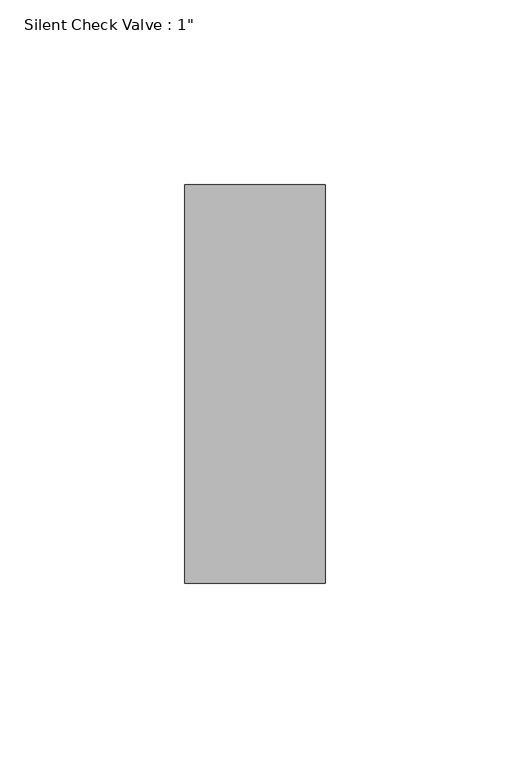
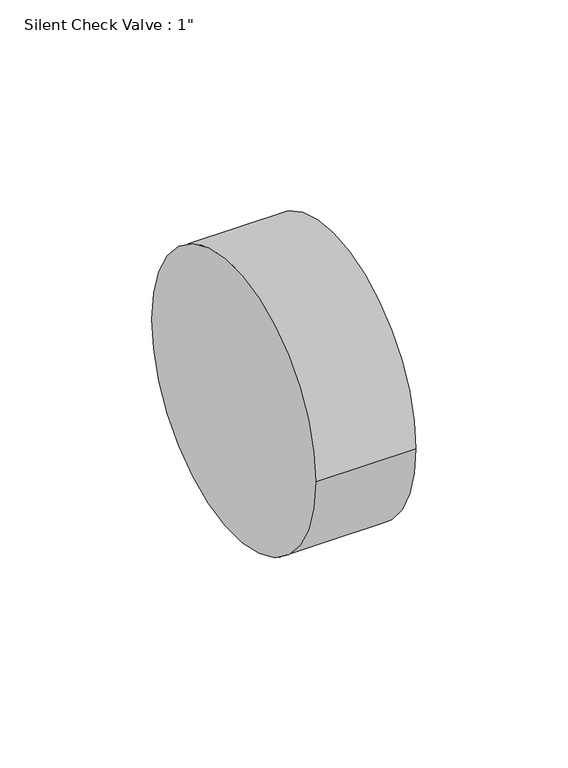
"""IFC4 building model written with IfcOpenShell, lengths in millimetres: valve geometry."""

from ifc_helpers import new_model, si_unit, point, frame, origin, origin_2d, place, context, project, spatial, circle_curve, trimmed, segment, composite_curve, outline, extrude, source, transform, mapped, element, save


def valve_a378d208(model_context):
    return source(origin(), model_context, "Body", "SweptSolid", [
        extrude(outline(composite_curve([segment(trimmed(circle_curve(origin_2d(), 53.975), [point((-53.975, 0.0))], [point((53.975, 0.0))], False, "CARTESIAN"), True, "CONTINUOUS"), segment(trimmed(circle_curve(origin_2d(), 53.975), [point((53.975, 0.0))], [point((-53.975, 0.0))], False, "CARTESIAN"), True, "CONTINUOUS")], self_intersect=False)), frame((-19.05, 0.0, 0.0), z_axis=(1.0, 0.0, 0.0), x_axis=(0.0, 1.0, 0.0)), (0.0, 0.0, 1.0), 38.1),
    ])


if __name__ == "__main__":
    model = new_model("IFC4")
    model_context = context("Model", 3, world=origin())
    ifc_project = project(units=[si_unit("LENGTHUNIT", "METRE", prefix="MILLI")], contexts=[model_context])
    site = spatial("IfcSite", under=ifc_project)
    building = spatial("IfcBuilding", under=site)
    placement = place(None, origin())
    valve_shape = valve_a378d208(model_context)
    element("IfcValve", 1, ObjectType="Silent Check Valve : 1\"", at=placement, inside=building, context=model_context, shape_type="MappedRepresentation", body=[
        mapped(valve_shape, transform((0.0, 0.0, 0.0), x_axis=(1.0, 0.0, 0.0), y_axis=(0.0, 1.0, 0.0), z_axis=(0.0, 0.0, 1.0))),
    ])
    save(model, "model.ifc")
